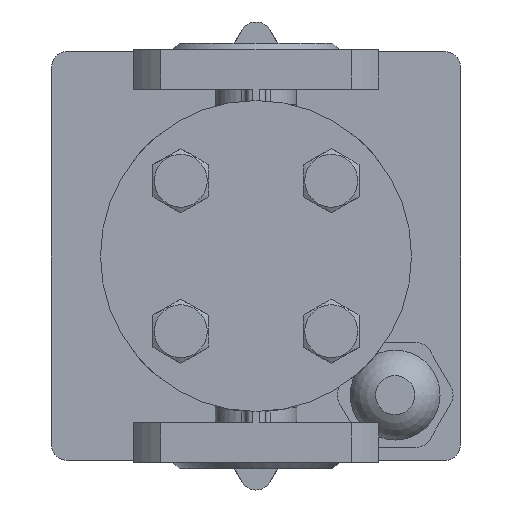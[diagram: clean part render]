
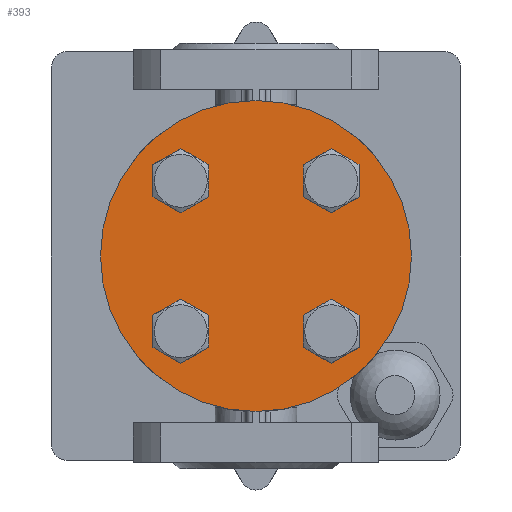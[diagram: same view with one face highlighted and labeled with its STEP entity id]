
A CAD part, front view. The second image highlights one B-rep face of the part: STEP entity #393.
In plain terms, the highlighted planar face has unit normal (0, -1, 0).
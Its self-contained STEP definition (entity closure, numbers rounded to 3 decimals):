
#393=ADVANCED_FACE('',(#9002,#9004,#9006,#9008,#9010),#9012,.F.);
#9002=FACE_BOUND('',#9003,.T.);
#9003=EDGE_LOOP('',(#22307));
#9004=FACE_BOUND('',#9005,.T.);
#9005=EDGE_LOOP('',(#22308,#22309,#22310,#22311,#22312,#22313));
#9006=FACE_BOUND('',#9007,.T.);
#9007=EDGE_LOOP('',(#22314,#22315,#22316,#22317,#22318,#22319));
#9008=FACE_BOUND('',#9009,.T.);
#9009=EDGE_LOOP('',(#22320,#22321,#22322,#22323,#22324,#22325));
#9010=FACE_BOUND('',#9011,.T.);
#9011=EDGE_LOOP('',(#22326,#22327,#22328,#22329,#22330,#22331));
#9012=PLANE('',#9013);
#9013=AXIS2_PLACEMENT_3D('',#9014,#9015,#9016);
#9014=CARTESIAN_POINT('',(0.,-82.,0.));
#9015=DIRECTION('',(0.,1.,0.));
#9016=DIRECTION('',(-1.,0.,0.));
#22307=ORIENTED_EDGE('',*,*,#29982,.F.);
#22308=ORIENTED_EDGE('',*,*,#29966,.T.);
#22309=ORIENTED_EDGE('',*,*,#29963,.T.);
#22310=ORIENTED_EDGE('',*,*,#29960,.T.);
#22311=ORIENTED_EDGE('',*,*,#29957,.T.);
#22312=ORIENTED_EDGE('',*,*,#29954,.T.);
#22313=ORIENTED_EDGE('',*,*,#29950,.T.);
#22314=ORIENTED_EDGE('',*,*,#29948,.T.);
#22315=ORIENTED_EDGE('',*,*,#29945,.T.);
#22316=ORIENTED_EDGE('',*,*,#29942,.T.);
#22317=ORIENTED_EDGE('',*,*,#29939,.T.);
#22318=ORIENTED_EDGE('',*,*,#29936,.T.);
#22319=ORIENTED_EDGE('',*,*,#29932,.T.);
#22320=ORIENTED_EDGE('',*,*,#29930,.T.);
#22321=ORIENTED_EDGE('',*,*,#29927,.T.);
#22322=ORIENTED_EDGE('',*,*,#29924,.T.);
#22323=ORIENTED_EDGE('',*,*,#29921,.T.);
#22324=ORIENTED_EDGE('',*,*,#29918,.T.);
#22325=ORIENTED_EDGE('',*,*,#29914,.T.);
#22326=ORIENTED_EDGE('',*,*,#29912,.T.);
#22327=ORIENTED_EDGE('',*,*,#29909,.T.);
#22328=ORIENTED_EDGE('',*,*,#29906,.T.);
#22329=ORIENTED_EDGE('',*,*,#29903,.T.);
#22330=ORIENTED_EDGE('',*,*,#29900,.T.);
#22331=ORIENTED_EDGE('',*,*,#29896,.T.);
#29896=EDGE_CURVE('',#33508,#33509,#33510,.F.);
#29900=EDGE_CURVE('',#33516,#33508,#33517,.F.);
#29903=EDGE_CURVE('',#33521,#33516,#33522,.F.);
#29906=EDGE_CURVE('',#33526,#33521,#33527,.F.);
#29909=EDGE_CURVE('',#33531,#33526,#33532,.F.);
#29912=EDGE_CURVE('',#33509,#33531,#33536,.F.);
#29914=EDGE_CURVE('',#33538,#33539,#33540,.F.);
#29918=EDGE_CURVE('',#33546,#33538,#33547,.F.);
#29921=EDGE_CURVE('',#33551,#33546,#33552,.F.);
#29924=EDGE_CURVE('',#33556,#33551,#33557,.F.);
#29927=EDGE_CURVE('',#33561,#33556,#33562,.F.);
#29930=EDGE_CURVE('',#33539,#33561,#33566,.F.);
#29932=EDGE_CURVE('',#33568,#33569,#33570,.F.);
#29936=EDGE_CURVE('',#33576,#33568,#33577,.F.);
#29939=EDGE_CURVE('',#33581,#33576,#33582,.F.);
#29942=EDGE_CURVE('',#33586,#33581,#33587,.F.);
#29945=EDGE_CURVE('',#33591,#33586,#33592,.F.);
#29948=EDGE_CURVE('',#33569,#33591,#33596,.F.);
#29950=EDGE_CURVE('',#33598,#33599,#33600,.F.);
#29954=EDGE_CURVE('',#33606,#33598,#33607,.F.);
#29957=EDGE_CURVE('',#33611,#33606,#33612,.F.);
#29960=EDGE_CURVE('',#33616,#33611,#33617,.F.);
#29963=EDGE_CURVE('',#33621,#33616,#33622,.F.);
#29966=EDGE_CURVE('',#33599,#33621,#33626,.F.);
#29982=EDGE_CURVE('',#33656,#33656,#33657,.T.);
#33508=VERTEX_POINT('',#39469);
#33509=VERTEX_POINT('',#39470);
#33510=LINE('',#39471,#39472);
#33516=VERTEX_POINT('',#39528);
#33517=LINE('',#39529,#39530);
#33521=VERTEX_POINT('',#39591);
#33522=LINE('',#39592,#39593);
#33526=VERTEX_POINT('',#39645);
#33527=LINE('',#39646,#39647);
#33531=VERTEX_POINT('',#39699);
#33532=LINE('',#39700,#39701);
#33536=LINE('',#39762,#39763);
#33538=VERTEX_POINT('',#39811);
#33539=VERTEX_POINT('',#39812);
#33540=LINE('',#39813,#39814);
#33546=VERTEX_POINT('',#39870);
#33547=LINE('',#39871,#39872);
#33551=VERTEX_POINT('',#39933);
#33552=LINE('',#39934,#39935);
#33556=VERTEX_POINT('',#39987);
#33557=LINE('',#39988,#39989);
#33561=VERTEX_POINT('',#40041);
#33562=LINE('',#40042,#40043);
#33566=LINE('',#40104,#40105);
#33568=VERTEX_POINT('',#40153);
#33569=VERTEX_POINT('',#40154);
#33570=LINE('',#40155,#40156);
#33576=VERTEX_POINT('',#40212);
#33577=LINE('',#40213,#40214);
#33581=VERTEX_POINT('',#40275);
#33582=LINE('',#40276,#40277);
#33586=VERTEX_POINT('',#40329);
#33587=LINE('',#40330,#40331);
#33591=VERTEX_POINT('',#40383);
#33592=LINE('',#40384,#40385);
#33596=LINE('',#40446,#40447);
#33598=VERTEX_POINT('',#40495);
#33599=VERTEX_POINT('',#40496);
#33600=LINE('',#40497,#40498);
#33606=VERTEX_POINT('',#40554);
#33607=LINE('',#40555,#40556);
#33611=VERTEX_POINT('',#40617);
#33612=LINE('',#40618,#40619);
#33616=VERTEX_POINT('',#40671);
#33617=LINE('',#40672,#40673);
#33621=VERTEX_POINT('',#40725);
#33622=LINE('',#40726,#40727);
#33626=LINE('',#40788,#40789);
#33656=VERTEX_POINT('',#40907);
#33657=CIRCLE('',#40908,47.5);
#39469=CARTESIAN_POINT('',(31.481,-82.,18.073));
#39470=CARTESIAN_POINT('',(22.981,-82.,13.166));
#39471=CARTESIAN_POINT('',(22.981,-82.,13.166));
#39472=VECTOR('',#39473,1.);
#39473=DIRECTION('',(0.866,0.,0.5));
#39528=CARTESIAN_POINT('',(31.481,-82.,27.888));
#39529=CARTESIAN_POINT('',(31.481,-82.,18.073));
#39530=VECTOR('',#39531,1.);
#39531=DIRECTION('',(0.,0.,1.));
#39591=CARTESIAN_POINT('',(22.981,-82.,32.796));
#39592=CARTESIAN_POINT('',(31.481,-82.,27.888));
#39593=VECTOR('',#39594,1.);
#39594=DIRECTION('',(-0.866,0.,0.5));
#39645=CARTESIAN_POINT('',(14.481,-82.,27.888));
#39646=CARTESIAN_POINT('',(22.981,-82.,32.796));
#39647=VECTOR('',#39648,1.);
#39648=DIRECTION('',(-0.866,0.,-0.5));
#39699=CARTESIAN_POINT('',(14.481,-82.,18.073));
#39700=CARTESIAN_POINT('',(14.481,-82.,27.888));
#39701=VECTOR('',#39702,1.);
#39702=DIRECTION('',(0.,0.,-1.));
#39762=CARTESIAN_POINT('',(14.481,-82.,18.073));
#39763=VECTOR('',#39764,1.);
#39764=DIRECTION('',(0.866,0.,-0.5));
#39811=CARTESIAN_POINT('',(-14.481,-82.,18.073));
#39812=CARTESIAN_POINT('',(-22.981,-82.,13.166));
#39813=CARTESIAN_POINT('',(-22.981,-82.,13.166));
#39814=VECTOR('',#39815,1.);
#39815=DIRECTION('',(0.866,0.,0.5));
#39870=CARTESIAN_POINT('',(-14.481,-82.,27.888));
#39871=CARTESIAN_POINT('',(-14.481,-82.,18.073));
#39872=VECTOR('',#39873,1.);
#39873=DIRECTION('',(0.,0.,1.));
#39933=CARTESIAN_POINT('',(-22.981,-82.,32.796));
#39934=CARTESIAN_POINT('',(-14.481,-82.,27.888));
#39935=VECTOR('',#39936,1.);
#39936=DIRECTION('',(-0.866,0.,0.5));
#39987=CARTESIAN_POINT('',(-31.481,-82.,27.888));
#39988=CARTESIAN_POINT('',(-22.981,-82.,32.796));
#39989=VECTOR('',#39990,1.);
#39990=DIRECTION('',(-0.866,0.,-0.5));
#40041=CARTESIAN_POINT('',(-31.481,-82.,18.073));
#40042=CARTESIAN_POINT('',(-31.481,-82.,27.888));
#40043=VECTOR('',#40044,1.);
#40044=DIRECTION('',(0.,0.,-1.));
#40104=CARTESIAN_POINT('',(-31.481,-82.,18.073));
#40105=VECTOR('',#40106,1.);
#40106=DIRECTION('',(0.866,0.,-0.5));
#40153=CARTESIAN_POINT('',(-14.481,-82.,-27.888));
#40154=CARTESIAN_POINT('',(-22.981,-82.,-32.796));
#40155=CARTESIAN_POINT('',(-22.981,-82.,-32.796));
#40156=VECTOR('',#40157,1.);
#40157=DIRECTION('',(0.866,0.,0.5));
#40212=CARTESIAN_POINT('',(-14.481,-82.,-18.073));
#40213=CARTESIAN_POINT('',(-14.481,-82.,-27.888));
#40214=VECTOR('',#40215,1.);
#40215=DIRECTION('',(0.,0.,1.));
#40275=CARTESIAN_POINT('',(-22.981,-82.,-13.166));
#40276=CARTESIAN_POINT('',(-14.481,-82.,-18.073));
#40277=VECTOR('',#40278,1.);
#40278=DIRECTION('',(-0.866,0.,0.5));
#40329=CARTESIAN_POINT('',(-31.481,-82.,-18.073));
#40330=CARTESIAN_POINT('',(-22.981,-82.,-13.166));
#40331=VECTOR('',#40332,1.);
#40332=DIRECTION('',(-0.866,0.,-0.5));
#40383=CARTESIAN_POINT('',(-31.481,-82.,-27.888));
#40384=CARTESIAN_POINT('',(-31.481,-82.,-18.073));
#40385=VECTOR('',#40386,1.);
#40386=DIRECTION('',(0.,0.,-1.));
#40446=CARTESIAN_POINT('',(-31.481,-82.,-27.888));
#40447=VECTOR('',#40448,1.);
#40448=DIRECTION('',(0.866,0.,-0.5));
#40495=CARTESIAN_POINT('',(31.481,-82.,-27.888));
#40496=CARTESIAN_POINT('',(22.981,-82.,-32.796));
#40497=CARTESIAN_POINT('',(22.981,-82.,-32.796));
#40498=VECTOR('',#40499,1.);
#40499=DIRECTION('',(0.866,0.,0.5));
#40554=CARTESIAN_POINT('',(31.481,-82.,-18.073));
#40555=CARTESIAN_POINT('',(31.481,-82.,-27.888));
#40556=VECTOR('',#40557,1.);
#40557=DIRECTION('',(0.,0.,1.));
#40617=CARTESIAN_POINT('',(22.981,-82.,-13.166));
#40618=CARTESIAN_POINT('',(31.481,-82.,-18.073));
#40619=VECTOR('',#40620,1.);
#40620=DIRECTION('',(-0.866,0.,0.5));
#40671=CARTESIAN_POINT('',(14.481,-82.,-18.073));
#40672=CARTESIAN_POINT('',(22.981,-82.,-13.166));
#40673=VECTOR('',#40674,1.);
#40674=DIRECTION('',(-0.866,0.,-0.5));
#40725=CARTESIAN_POINT('',(14.481,-82.,-27.888));
#40726=CARTESIAN_POINT('',(14.481,-82.,-18.073));
#40727=VECTOR('',#40728,1.);
#40728=DIRECTION('',(0.,0.,-1.));
#40788=CARTESIAN_POINT('',(14.481,-82.,-27.888));
#40789=VECTOR('',#40790,1.);
#40790=DIRECTION('',(0.866,0.,-0.5));
#40907=CARTESIAN_POINT('',(-47.5,-82.,0.));
#40908=AXIS2_PLACEMENT_3D('',#40909,#40910,#40911);
#40909=CARTESIAN_POINT('',(0.,-82.,0.));
#40910=DIRECTION('',(0.,1.,0.));
#40911=DIRECTION('',(-1.,0.,0.));
